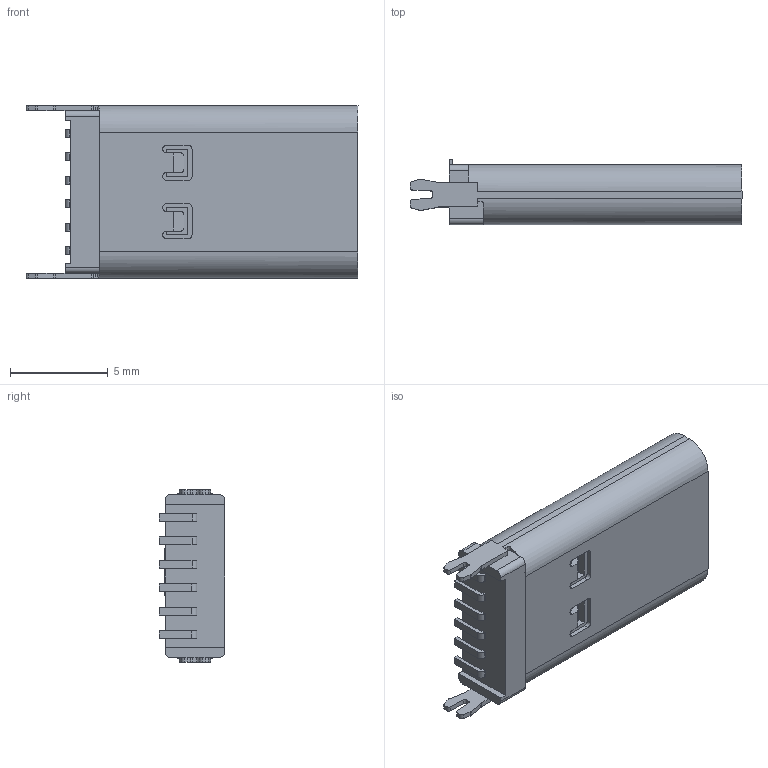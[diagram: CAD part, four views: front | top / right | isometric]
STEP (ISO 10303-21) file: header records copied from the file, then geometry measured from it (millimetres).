
FILE_DESCRIPTION((''),'2;1');
FILE_NAME('ASM0001_ASM','2024-01-28T',('WYH'),(''),'PRO/ENGINEER BY PARAMETRIC TECHNOLOGY CORPORATION, 2013040','PRO/ENGINEER BY PARAMETRIC TECHNOLOGY CORPORATION, 2013040','');
FILE_SCHEMA(('CONFIG_CONTROL_DESIGN'));
Length unit declared in the file: millimetre
Products named in the file (1): ASM0001_ASM
Bounding box: 17 x 3.36 x 8.84 mm (x, y, z)
Volume: 260.5 mm3; surface area: 702.3 mm2
Topology: 1 solids, 30 shells, 601 faces, 1730 edges, 1182 vertices
Faces by surface type: plane 416, cylinder 173, cone 8, bspline 4
Entity records: 19903 total; most frequent: CARTESIAN_POINT 4175, ORIENTED_EDGE 3220, DIRECTION 3134, EDGE_CURVE 1730, VECTOR 1276, LINE 1276, VERTEX_POINT 1182, AXIS2_PLACEMENT_3D 929
